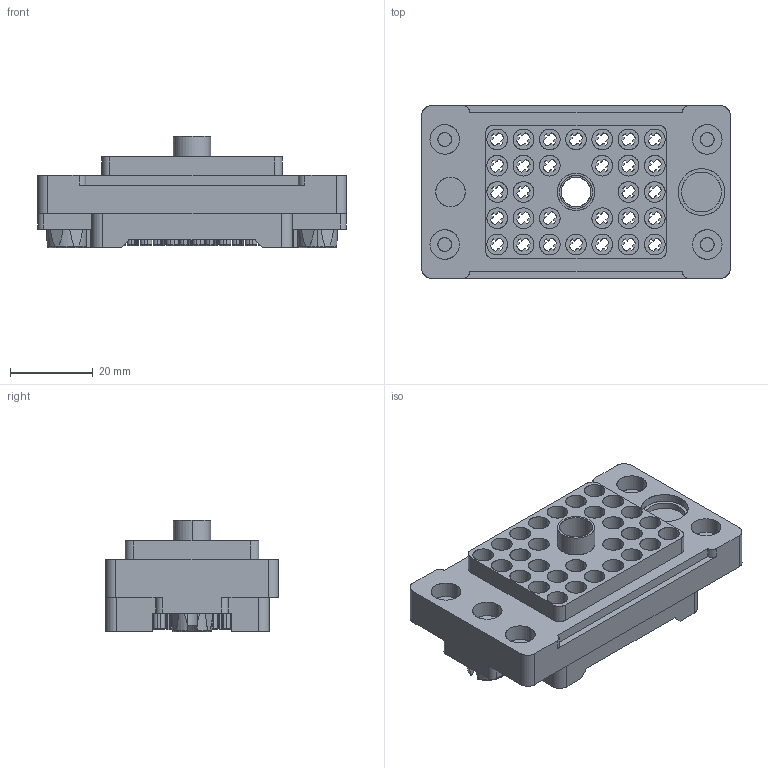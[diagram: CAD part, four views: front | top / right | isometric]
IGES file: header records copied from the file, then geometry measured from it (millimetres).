
Start section: SolidWorks IGES file using analytic representation for surfaces
Global section: file name: N:\Kamikawa_Hisako\★三次元モデル作成依頼\8027\00_8027_030_000_004.IGS; native system: SolidWorks 2023; preprocessor: SolidWorks 2023; author: KamikawaHisako　(神河　久,,11,; organization: 0; date: 241121.140613; units: millimetre
Bounding box: 74.6 x 41.7 x 27 mm (x, y, z)
Surface area: 23477.4 mm2 (no closed solid volume)
Topology: 0 solids, 0 shells, 2319 faces, 18471 edges, 18471 vertices
Faces by surface type: bspline 1274, revolution 1045
